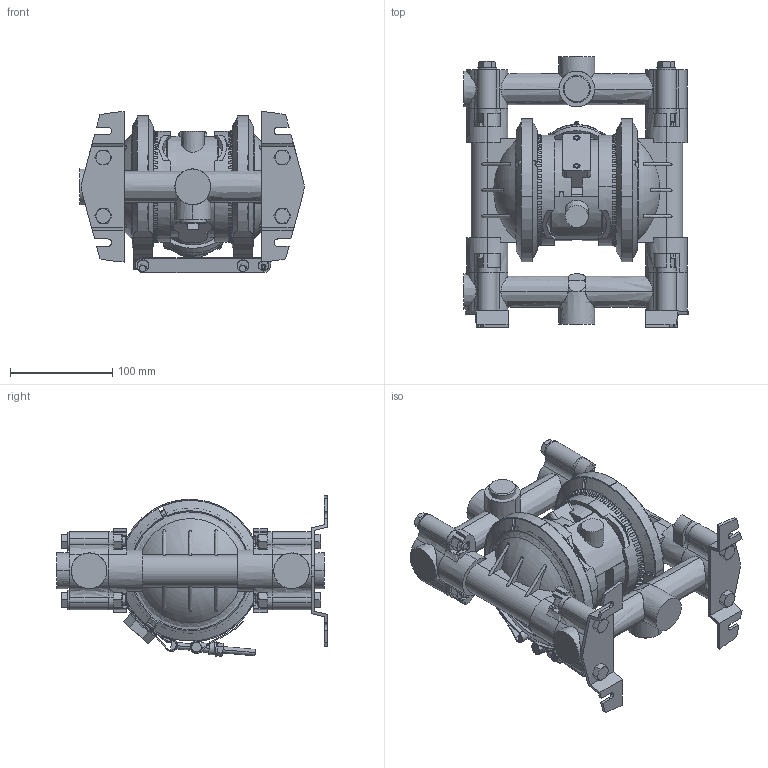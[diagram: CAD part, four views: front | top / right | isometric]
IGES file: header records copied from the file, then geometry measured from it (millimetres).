
Start section:  PTC IGES file: 241408-en-l.igs
Global section: file name: 241408-en-l.igs; native system: Creo Parametric by PTC Inc.; preprocessor: 2019030; author: qusrh3; organization: Unknown; date: 20191231.161610; units: inch
Bounding box: 219.43 x 264.8 x 157.53 mm (x, y, z)
Surface area: 458646.1 mm2 (no closed solid volume)
Topology: 0 solids, 0 shells, 2174 faces, 11750 edges, 11750 vertices
Faces by surface type: revolution 1281, bspline 892, extrusion 1
